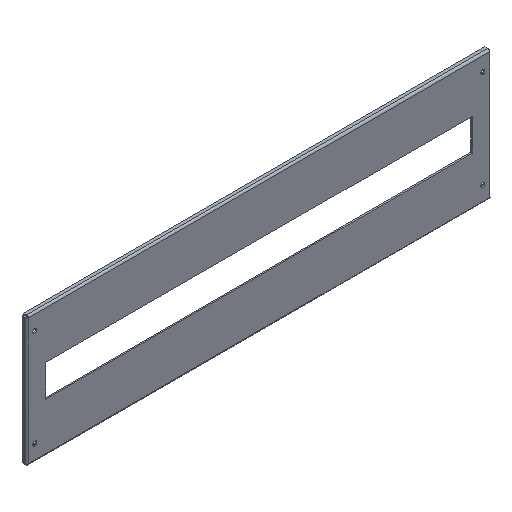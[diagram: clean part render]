
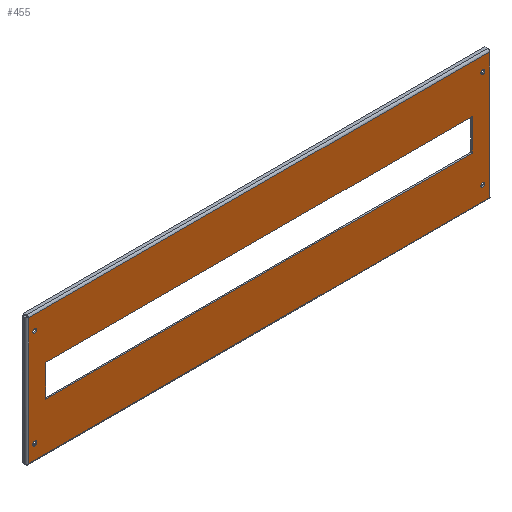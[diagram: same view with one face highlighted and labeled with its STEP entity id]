
A CAD part, isometric view. The second image highlights one B-rep face of the part: STEP entity #455.
In plain terms, the highlighted planar face has unit normal (0, -1, 0).
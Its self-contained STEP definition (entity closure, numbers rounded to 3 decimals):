
#2 = CARTESIAN_POINT ( 'NONE',  ( 2.707, -2., -189.263 ) ) ;
#3 = CARTESIAN_POINT ( 'NONE',  ( 12., -2., -168. ) ) ;
#5 = AXIS2_PLACEMENT_3D ( 'NONE', #1190, #1339, #614 ) ;
#29 = CARTESIAN_POINT ( 'NONE',  ( 28., -2., -119.5 ) ) ;
#42 = EDGE_CURVE ( 'NONE', #1805, #1116, #771, .T. ) ;
#44 = DIRECTION ( 'NONE',  ( 0., 0., 1. ) ) ;
#53 = CARTESIAN_POINT ( 'NONE',  ( 683.263, -2., -189.263 ) ) ;
#72 = EDGE_CURVE ( 'NONE', #1019, #1074, #561, .T. ) ;
#103 = CARTESIAN_POINT ( 'NONE',  ( 2.737, -2., -2.737 ) ) ;
#106 = CARTESIAN_POINT ( 'NONE',  ( 12., -2., -165. ) ) ;
#162 = CARTESIAN_POINT ( 'NONE',  ( 12., -2., -21. ) ) ;
#174 = FACE_BOUND ( 'NONE', #1080, .T. ) ;
#191 = VECTOR ( 'NONE', #1319, 1000. ) ;
#193 = ORIENTED_EDGE ( 'NONE', *, *, #531, .F. ) ;
#224 = DIRECTION ( 'NONE',  ( 0., 0., -1. ) ) ;
#230 = EDGE_CURVE ( 'NONE', #1116, #1805, #1044, .T. ) ;
#235 = DIRECTION ( 'NONE',  ( 0., 0., -1. ) ) ;
#238 = EDGE_CURVE ( 'NONE', #1138, #1715, #1471, .T. ) ;
#270 = DIRECTION ( 'NONE',  ( 0., 0., -1. ) ) ;
#271 = EDGE_CURVE ( 'NONE', #602, #745, #855, .T. ) ;
#296 = CARTESIAN_POINT ( 'NONE',  ( 674., -2., -171. ) ) ;
#303 = FACE_OUTER_BOUND ( 'NONE', #367, .T. ) ;
#342 = CARTESIAN_POINT ( 'NONE',  ( 683.263, -2., -2.737 ) ) ;
#367 = EDGE_LOOP ( 'NONE', ( #606, #1078, #1156, #1294 ) ) ;
#373 = DIRECTION ( 'NONE',  ( 0., 0., -1. ) ) ;
#377 = AXIS2_PLACEMENT_3D ( 'NONE', #909, #1748, #44 ) ;
#398 = DIRECTION ( 'NONE',  ( 0., 0., -1. ) ) ;
#403 = CARTESIAN_POINT ( 'NONE',  ( 683.263, -2., -189.293 ) ) ;
#405 = EDGE_CURVE ( 'NONE', #745, #602, #1499, .T. ) ;
#431 = VECTOR ( 'NONE', #846, 1000. ) ;
#436 = DIRECTION ( 'NONE',  ( 0., -1., 0. ) ) ;
#438 = EDGE_CURVE ( 'NONE', #1407, #816, #1360, .T. ) ;
#455 = ADVANCED_FACE ( 'NONE', ( #1291, #1155, #947, #475, #174, #303 ), #1003, .T. ) ;
#475 = FACE_BOUND ( 'NONE', #950, .T. ) ;
#492 = LINE ( 'NONE', #1185, #191 ) ;
#508 = AXIS2_PLACEMENT_3D ( 'NONE', #1146, #1720, #711 ) ;
#511 = EDGE_CURVE ( 'NONE', #816, #1407, #1015, .T. ) ;
#513 = CARTESIAN_POINT ( 'NONE',  ( 674., -2., -21. ) ) ;
#531 = EDGE_CURVE ( 'NONE', #1715, #1138, #1097, .T. ) ;
#537 = LINE ( 'NONE', #1514, #555 ) ;
#542 = AXIS2_PLACEMENT_3D ( 'NONE', #1810, #1398, #373 ) ;
#543 = EDGE_LOOP ( 'NONE', ( #609, #1244 ) ) ;
#549 = DIRECTION ( 'NONE',  ( -1., 0., 0. ) ) ;
#555 = VECTOR ( 'NONE', #235, 1000. ) ;
#556 = ORIENTED_EDGE ( 'NONE', *, *, #271, .F. ) ;
#561 = LINE ( 'NONE', #403, #702 ) ;
#585 = ORIENTED_EDGE ( 'NONE', *, *, #643, .F. ) ;
#592 = DIRECTION ( 'NONE',  ( 0., -1., 0. ) ) ;
#602 = VERTEX_POINT ( 'NONE', #1323 ) ;
#603 = ORIENTED_EDGE ( 'NONE', *, *, #42, .F. ) ;
#606 = ORIENTED_EDGE ( 'NONE', *, *, #1576, .T. ) ;
#609 = ORIENTED_EDGE ( 'NONE', *, *, #511, .F. ) ;
#614 = DIRECTION ( 'NONE',  ( 0., 0., -1. ) ) ;
#618 = CARTESIAN_POINT ( 'NONE',  ( 674., -2., -165. ) ) ;
#643 = EDGE_CURVE ( 'NONE', #1154, #1228, #1584, .T. ) ;
#653 = VECTOR ( 'NONE', #1709, 1000. ) ;
#654 = CARTESIAN_POINT ( 'NONE',  ( 12., -2., -27. ) ) ;
#679 = ORIENTED_EDGE ( 'NONE', *, *, #1635, .F. ) ;
#698 = ORIENTED_EDGE ( 'NONE', *, *, #405, .F. ) ;
#699 = AXIS2_PLACEMENT_3D ( 'NONE', #3, #1416, #1143 ) ;
#702 = VECTOR ( 'NONE', #1414, 1000. ) ;
#703 = EDGE_LOOP ( 'NONE', ( #556, #698 ) ) ;
#707 = CARTESIAN_POINT ( 'NONE',  ( 674., -2., -27. ) ) ;
#711 = DIRECTION ( 'NONE',  ( 0., 0., -1. ) ) ;
#724 = CARTESIAN_POINT ( 'NONE',  ( 658., -2., -119.5 ) ) ;
#745 = VERTEX_POINT ( 'NONE', #106 ) ;
#758 = CARTESIAN_POINT ( 'NONE',  ( 658., -2., -72.5 ) ) ;
#762 = VECTOR ( 'NONE', #549, 1000. ) ;
#771 = CIRCLE ( 'NONE', #789, 3. ) ;
#789 = AXIS2_PLACEMENT_3D ( 'NONE', #1807, #1530, #270 ) ;
#805 = EDGE_CURVE ( 'NONE', #1547, #1019, #1497, .T. ) ;
#807 = CARTESIAN_POINT ( 'NONE',  ( 2.737, -2., -189.263 ) ) ;
#816 = VERTEX_POINT ( 'NONE', #707 ) ;
#844 = ORIENTED_EDGE ( 'NONE', *, *, #238, .F. ) ;
#846 = DIRECTION ( 'NONE',  ( 1., 0., 0. ) ) ;
#855 = CIRCLE ( 'NONE', #699, 3. ) ;
#909 = CARTESIAN_POINT ( 'NONE',  ( 674., -2., -24. ) ) ;
#947 = FACE_BOUND ( 'NONE', #703, .T. ) ;
#950 = EDGE_LOOP ( 'NONE', ( #844, #193 ) ) ;
#1003 = PLANE ( 'NONE',  #508 ) ;
#1015 = CIRCLE ( 'NONE', #377, 3. ) ;
#1019 = VERTEX_POINT ( 'NONE', #53 ) ;
#1044 = CIRCLE ( 'NONE', #542, 3. ) ;
#1074 = VERTEX_POINT ( 'NONE', #342 ) ;
#1078 = ORIENTED_EDGE ( 'NONE', *, *, #1193, .T. ) ;
#1080 = EDGE_LOOP ( 'NONE', ( #585, #679, #1696, #1268 ) ) ;
#1097 = CIRCLE ( 'NONE', #5, 3. ) ;
#1105 = CARTESIAN_POINT ( 'NONE',  ( 12., -2., -24. ) ) ;
#1116 = VERTEX_POINT ( 'NONE', #618 ) ;
#1127 = AXIS2_PLACEMENT_3D ( 'NONE', #1601, #592, #1303 ) ;
#1138 = VERTEX_POINT ( 'NONE', #654 ) ;
#1143 = DIRECTION ( 'NONE',  ( 0., 0., 1. ) ) ;
#1146 = CARTESIAN_POINT ( 'NONE',  ( 0., -2., 0. ) ) ;
#1154 = VERTEX_POINT ( 'NONE', #1509 ) ;
#1155 = FACE_BOUND ( 'NONE', #1694, .T. ) ;
#1156 = ORIENTED_EDGE ( 'NONE', *, *, #805, .T. ) ;
#1167 = CARTESIAN_POINT ( 'NONE',  ( 12., -2., -168. ) ) ;
#1178 = VERTEX_POINT ( 'NONE', #103 ) ;
#1185 = CARTESIAN_POINT ( 'NONE',  ( 658., -2., -119.5 ) ) ;
#1190 = CARTESIAN_POINT ( 'NONE',  ( 12., -2., -24. ) ) ;
#1192 = CARTESIAN_POINT ( 'NONE',  ( 28., -2., -119.5 ) ) ;
#1193 = EDGE_CURVE ( 'NONE', #1178, #1547, #537, .T. ) ;
#1216 = CARTESIAN_POINT ( 'NONE',  ( 28., -2., -119.5 ) ) ;
#1220 = EDGE_CURVE ( 'NONE', #1800, #1249, #492, .T. ) ;
#1228 = VERTEX_POINT ( 'NONE', #1192 ) ;
#1244 = ORIENTED_EDGE ( 'NONE', *, *, #438, .F. ) ;
#1249 = VERTEX_POINT ( 'NONE', #758 ) ;
#1268 = ORIENTED_EDGE ( 'NONE', *, *, #1771, .F. ) ;
#1273 = CARTESIAN_POINT ( 'NONE',  ( 28., -2., -72.5 ) ) ;
#1291 = FACE_BOUND ( 'NONE', #543, .T. ) ;
#1294 = ORIENTED_EDGE ( 'NONE', *, *, #72, .T. ) ;
#1303 = DIRECTION ( 'NONE',  ( 0., 0., 1. ) ) ;
#1311 = DIRECTION ( 'NONE',  ( 0., 0., 1. ) ) ;
#1319 = DIRECTION ( 'NONE',  ( 0., 0., 1. ) ) ;
#1323 = CARTESIAN_POINT ( 'NONE',  ( 12., -2., -171. ) ) ;
#1339 = DIRECTION ( 'NONE',  ( 0., -1., 0. ) ) ;
#1360 = CIRCLE ( 'NONE', #1127, 3. ) ;
#1395 = DIRECTION ( 'NONE',  ( 0., -1., 0. ) ) ;
#1398 = DIRECTION ( 'NONE',  ( 0., -1., 0. ) ) ;
#1407 = VERTEX_POINT ( 'NONE', #513 ) ;
#1414 = DIRECTION ( 'NONE',  ( 0., 0., 1. ) ) ;
#1416 = DIRECTION ( 'NONE',  ( 0., -1., 0. ) ) ;
#1429 = ORIENTED_EDGE ( 'NONE', *, *, #230, .F. ) ;
#1471 = CIRCLE ( 'NONE', #1700, 3. ) ;
#1497 = LINE ( 'NONE', #2, #431 ) ;
#1499 = CIRCLE ( 'NONE', #1760, 3. ) ;
#1509 = CARTESIAN_POINT ( 'NONE',  ( 28., -2., -72.5 ) ) ;
#1514 = CARTESIAN_POINT ( 'NONE',  ( 2.737, -2., -2.707 ) ) ;
#1530 = DIRECTION ( 'NONE',  ( 0., -1., 0. ) ) ;
#1537 = LINE ( 'NONE', #1273, #653 ) ;
#1547 = VERTEX_POINT ( 'NONE', #807 ) ;
#1576 = EDGE_CURVE ( 'NONE', #1074, #1178, #1840, .T. ) ;
#1584 = LINE ( 'NONE', #1216, #1822 ) ;
#1589 = DIRECTION ( 'NONE',  ( 1., 0., 0. ) ) ;
#1601 = CARTESIAN_POINT ( 'NONE',  ( 674., -2., -24. ) ) ;
#1635 = EDGE_CURVE ( 'NONE', #1249, #1154, #1537, .T. ) ;
#1666 = LINE ( 'NONE', #29, #1795 ) ;
#1694 = EDGE_LOOP ( 'NONE', ( #603, #1429 ) ) ;
#1696 = ORIENTED_EDGE ( 'NONE', *, *, #1220, .F. ) ;
#1700 = AXIS2_PLACEMENT_3D ( 'NONE', #1105, #1395, #398 ) ;
#1709 = DIRECTION ( 'NONE',  ( -1., 0., 0. ) ) ;
#1715 = VERTEX_POINT ( 'NONE', #162 ) ;
#1720 = DIRECTION ( 'NONE',  ( 0., -1., 0. ) ) ;
#1748 = DIRECTION ( 'NONE',  ( 0., -1., 0. ) ) ;
#1760 = AXIS2_PLACEMENT_3D ( 'NONE', #1167, #436, #1311 ) ;
#1771 = EDGE_CURVE ( 'NONE', #1228, #1800, #1666, .T. ) ;
#1795 = VECTOR ( 'NONE', #1589, 1000. ) ;
#1800 = VERTEX_POINT ( 'NONE', #724 ) ;
#1805 = VERTEX_POINT ( 'NONE', #296 ) ;
#1806 = CARTESIAN_POINT ( 'NONE',  ( 683.293, -2., -2.737 ) ) ;
#1807 = CARTESIAN_POINT ( 'NONE',  ( 674., -2., -168. ) ) ;
#1810 = CARTESIAN_POINT ( 'NONE',  ( 674., -2., -168. ) ) ;
#1822 = VECTOR ( 'NONE', #224, 1000. ) ;
#1840 = LINE ( 'NONE', #1806, #762 ) ;
